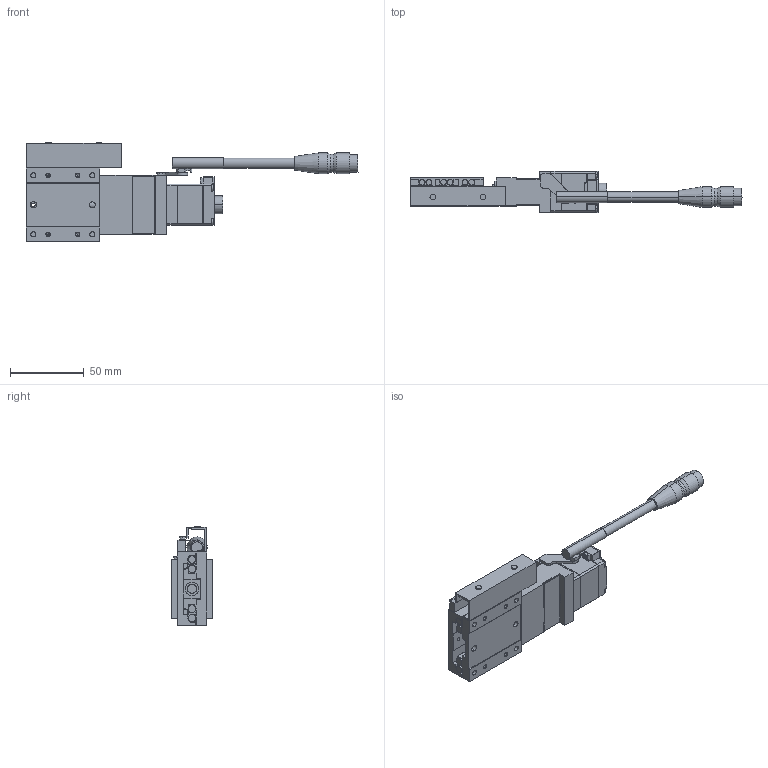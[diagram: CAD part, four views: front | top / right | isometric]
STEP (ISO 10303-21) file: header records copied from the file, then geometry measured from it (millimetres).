
FILE_DESCRIPTION(('STEP AP203'),'1');
FILE_NAME('C:/3D-Trans/3D_PG513T-L□-E+240116.step','2024-02-26T07:58:13',(' '),(' '),'Spatial InterOp 3D',' ',' ');
FILE_SCHEMA(('CONFIG_CONTROL_DESIGN'));
Length unit declared in the file: millimetre
Products named in the file (6): 1; 2; 3; 4; 5; 6
Bounding box: 225 x 28 x 67.4 mm (x, y, z)
Volume: 102346.7 mm3; surface area: 47076.1 mm2
Topology: 6 solids, 6 shells, 691 faces, 1741 edges, 1101 vertices
Faces by surface type: plane 380, cylinder 229, cone 82
Entity records: 20873 total; most frequent: DIRECTION 3685, CARTESIAN_POINT 3557, ORIENTED_EDGE 3442, EDGE_CURVE 1721, AXIS2_PLACEMENT_3D 1277, LINE 1131, VECTOR 1131, VERTEX_POINT 1101
